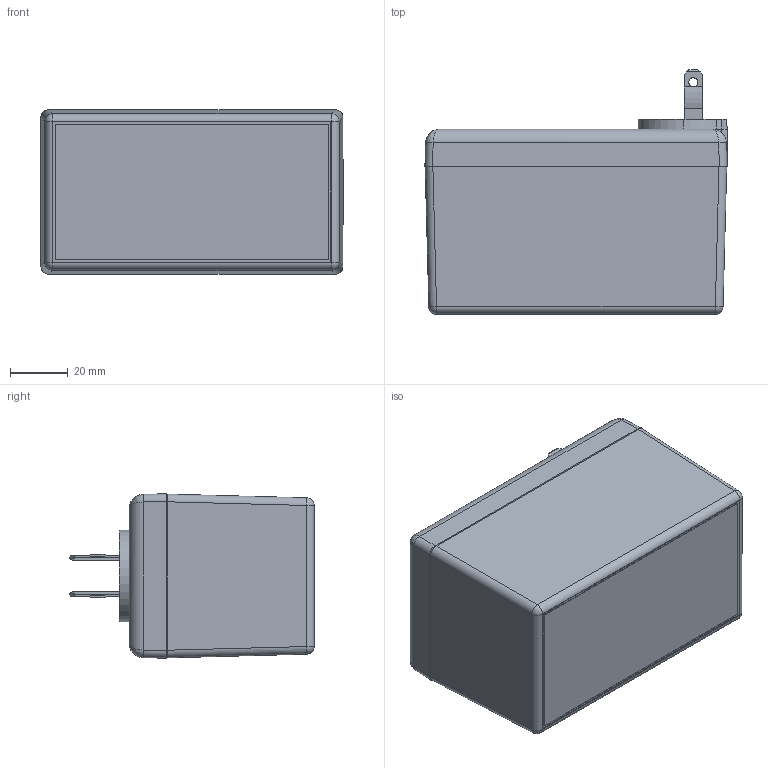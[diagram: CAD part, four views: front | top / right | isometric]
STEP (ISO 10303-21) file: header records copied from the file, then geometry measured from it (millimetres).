
FILE_DESCRIPTION (( 'STEP AP214' ), '1' );
FILE_NAME ('PM2425T02XNT.STEP', '2010-07-15T14:18:55', ( '' ), ( '' ), 'SwSTEP 2.0', 'SolidWorks 2010', '' );
FILE_SCHEMA (( 'AUTOMOTIVE_DESIGN' ));
Length unit declared in the file: inch
Products named in the file (8): TS-2420B AND PM2420_TS-2420BP; B2405 ASS''Y_B24052XNT; MPB2405_MPB24052NT; BLADES; WELD DISC-PS-BK; SCREWS-HL1-BR; B2405-PCB; PM2425T02XNT
Assembly tree (11 placements, depth 3):
  PM2425T02XNT
    B2405-PCB
    SCREWS-HL1-BR  x4
    TS-2420B AND PM2420_TS-2420BP
    B2405 ASS''Y_B24052XNT
      BLADES  x2
      MPB2405_MPB24052NT
      WELD DISC-PS-BK
Bounding box: 104.6 x 84.55 x 56.95 mm (x, y, z)
Volume: 89223.7 mm3; surface area: 82181.2 mm2
Topology: 10 solids, 10 shells, 879 faces, 2451 edges, 1600 vertices
Faces by surface type: cylinder 486, plane 272, cone 77, bspline 28, sphere 12, torus 4
Entity records: 18194 total; most frequent: CARTESIAN_POINT 6096, ORIENTED_EDGE 2616, DIRECTION 2326, EDGE_CURVE 1308, VERTEX_POINT 850, AXIS2_PLACEMENT_3D 819, LINE 688, VECTOR 688
